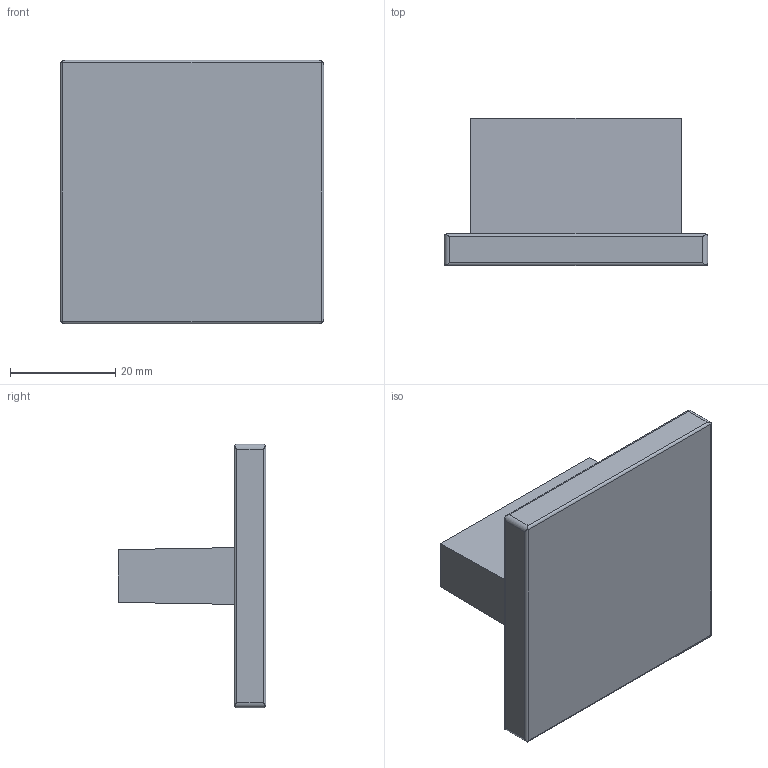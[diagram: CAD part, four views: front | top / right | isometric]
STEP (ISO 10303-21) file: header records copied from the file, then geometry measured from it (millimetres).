
FILE_DESCRIPTION( ( 'STEP AP214' ), '1' );
FILE_NAME( 'C:/Users/KOSH/Desktop/2021/Sunil/New folder/9113397.stp', '2021-11-15T13:12:24', ( '' ), ( '' ), ' ', 'PARTsolutions', ' ' );
FILE_SCHEMA( ( 'AUTOMOTIVE_DESIGN { 1 0 10303 214 1 1 1 1 }' ) );
Length unit declared in the file: millimetre
Products named in the file (1): _9113397
Bounding box: 50 x 28 x 50 mm (x, y, z)
Volume: 23935.9 mm3; surface area: 8466.1 mm2
Topology: 1 solids, 1 shells, 27 faces, 66 edges, 44 vertices
Faces by surface type: cylinder 14, plane 13
Full cylindrical faces by diameter (mm): 4 x2
Entity records: 1062 total; most frequent: CARTESIAN_POINT 216, ORIENTED_EDGE 128, DIRECTION 116, EDGE_CURVE 64, VERTEX_POINT 44, AXIS2_PLACEMENT_3D 40, LINE 36, VECTOR 36
